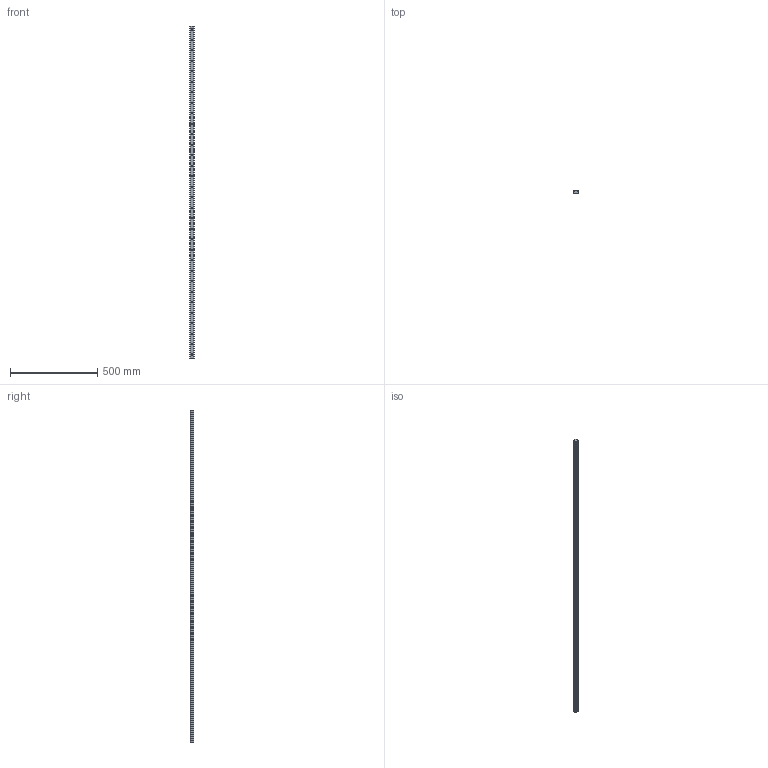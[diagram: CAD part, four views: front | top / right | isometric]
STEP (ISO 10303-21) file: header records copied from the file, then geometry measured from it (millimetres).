
FILE_DESCRIPTION (( 'STEP AP203' ), '1' );
FILE_NAME ('L1016.BRF25-1900.step', '2019-06-13T08:40:05', ( '' ), ( '' ), 'SwSTEP 2.0', 'SolidWorks 2017', '' );
FILE_SCHEMA (( 'CONFIG_CONTROL_DESIGN' ));
Length unit declared in the file: millimetre
Products named in the file (1): L1016.BRF25-1900
Bounding box: 23 x 19.2 x 1900 mm (x, y, z)
Volume: 725379.4 mm3; surface area: 175156.2 mm2
Topology: 1 solids, 1 shells, 250 faces, 584 edges, 336 vertices
Faces by surface type: cylinder 132, cone 64, plane 54
Entity records: 6789 total; most frequent: DIRECTION 1286, CARTESIAN_POINT 1107, ORIENTED_EDGE 1040, EDGE_CURVE 520, AXIS2_PLACEMENT_3D 515, VERTEX_POINT 336, EDGE_LOOP 314, CIRCLE 264
